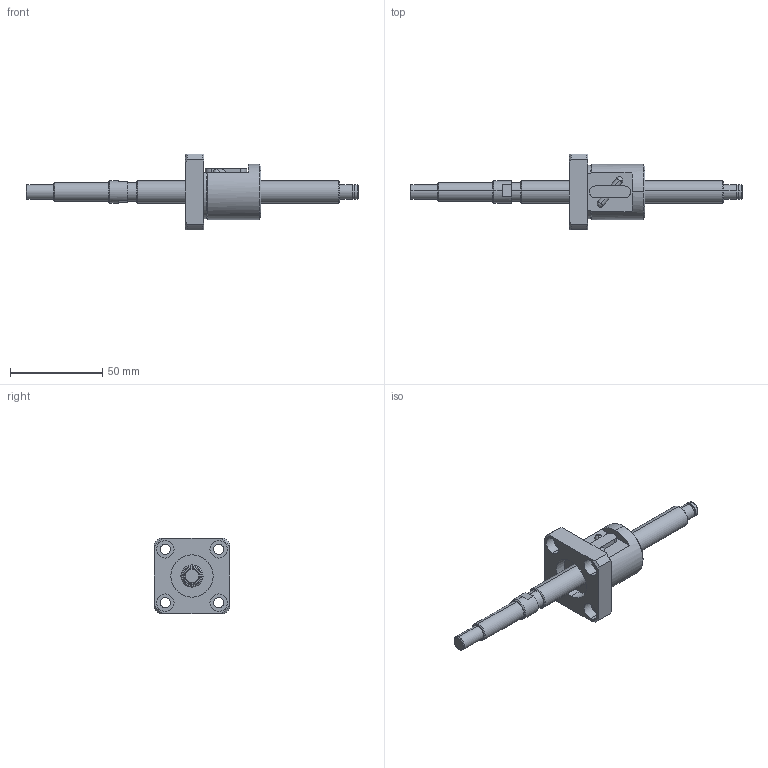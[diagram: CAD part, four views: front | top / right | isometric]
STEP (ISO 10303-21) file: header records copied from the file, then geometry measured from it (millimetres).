
FILE_DESCRIPTION (( 'STEP AP203' ), '1' );
FILE_NAME ('TS1204 assy_20160716.STEP', '2016-07-16T04:52:23', ( 'user' ), ( 'Hewlett-Packard Company' ), 'SwSTEP 2.0', 'SolidWorks 2014', '' );
FILE_SCHEMA (( 'CONFIG_CONTROL_DESIGN' ));
Length unit declared in the file: millimetre
Products named in the file (3): TS1204 assy_20160716; TS1204 nut; TS1204 screw
Assembly tree (2 placements, depth 2):
  TS1204 assy_20160716
    TS1204 screw
    TS1204 nut
Bounding box: 180 x 41 x 41 mm (x, y, z)
Volume: 44314.7 mm3; surface area: 17076.9 mm2
Topology: 2 solids, 2 shells, 115 faces, 271 edges, 173 vertices
Faces by surface type: cylinder 53, plane 33, cone 26, sphere 3
Entity records: 3654 total; most frequent: CARTESIAN_POINT 624, DIRECTION 623, ORIENTED_EDGE 534, EDGE_CURVE 267, AXIS2_PLACEMENT_3D 258, VERTEX_POINT 171, EDGE_LOOP 140, CIRCLE 138
